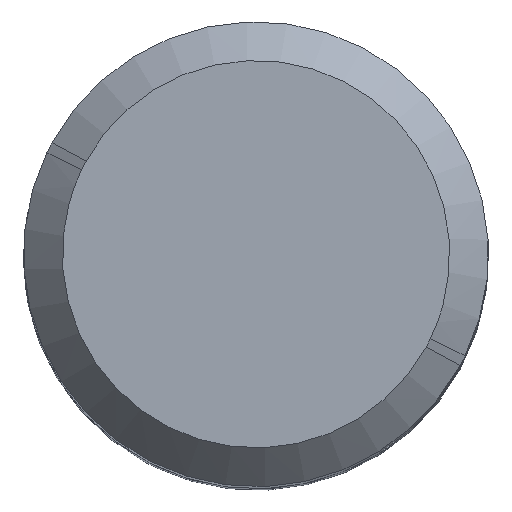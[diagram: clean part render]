
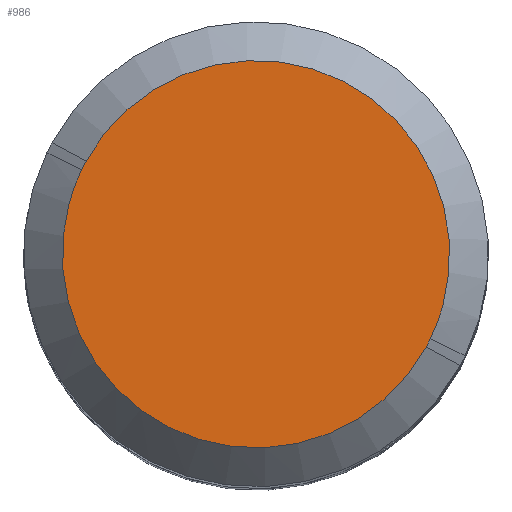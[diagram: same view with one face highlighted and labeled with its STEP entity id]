
A CAD part, top view. The second image highlights one B-rep face of the part: STEP entity #986.
In plain terms, the highlighted planar face has unit normal (0, 0, 1).
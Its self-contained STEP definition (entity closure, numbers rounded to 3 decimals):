
#934=DIRECTION('Axis2P3D Direction',(0.,0.,-1.)) ;
#935=DIRECTION('Axis2P3D XDirection',(1.,0.,0.)) ;
#933=CARTESIAN_POINT('Axis2P3D Location',(1158.25,-835.001,198.5)) ;
#939=CARTESIAN_POINT('Control Point',(1160.444,-836.199,198.5)) ;
#940=CARTESIAN_POINT('Control Point',(1160.073,-836.878,198.5)) ;
#941=CARTESIAN_POINT('Control Point',(1159.44,-837.413,198.5)) ;
#942=CARTESIAN_POINT('Control Point',(1158.616,-837.666,198.5)) ;
#943=CARTESIAN_POINT('Control Point',(1156.967,-837.488,198.5)) ;
#944=CARTESIAN_POINT('Control Point',(1155.866,-836.247,198.5)) ;
#945=CARTESIAN_POINT('Control Point',(1155.594,-835.43,198.5)) ;
#946=CARTESIAN_POINT('Control Point',(1155.663,-834.604,198.5)) ;
#947=CARTESIAN_POINT('Control Point',(1156.001,-833.908,198.5)) ;
#948=CARTESIAN_POINT('Vertex',(1156.001,-833.908,198.5)) ;
#950=CARTESIAN_POINT('Vertex',(1160.444,-836.199,198.5)) ;
#954=CARTESIAN_POINT('Control Point',(1160.498,-836.093,198.5)) ;
#955=CARTESIAN_POINT('Control Point',(1160.481,-836.129,198.5)) ;
#956=CARTESIAN_POINT('Control Point',(1160.463,-836.164,198.5)) ;
#957=CARTESIAN_POINT('Control Point',(1160.444,-836.199,198.5)) ;
#958=CARTESIAN_POINT('Vertex',(1160.498,-836.093,198.5)) ;
#962=CARTESIAN_POINT('Control Point',(1156.056,-833.802,198.5)) ;
#963=CARTESIAN_POINT('Control Point',(1156.427,-833.123,198.5)) ;
#964=CARTESIAN_POINT('Control Point',(1157.06,-832.588,198.5)) ;
#965=CARTESIAN_POINT('Control Point',(1157.884,-832.336,198.5)) ;
#966=CARTESIAN_POINT('Control Point',(1159.533,-832.513,198.5)) ;
#967=CARTESIAN_POINT('Control Point',(1160.634,-833.754,198.5)) ;
#968=CARTESIAN_POINT('Control Point',(1160.906,-834.571,198.5)) ;
#969=CARTESIAN_POINT('Control Point',(1160.837,-835.398,198.5)) ;
#970=CARTESIAN_POINT('Control Point',(1160.498,-836.093,198.5)) ;
#971=CARTESIAN_POINT('Vertex',(1156.056,-833.802,198.5)) ;
#975=CARTESIAN_POINT('Control Point',(1156.001,-833.908,198.5)) ;
#976=CARTESIAN_POINT('Control Point',(1156.019,-833.872,198.5)) ;
#977=CARTESIAN_POINT('Control Point',(1156.037,-833.837,198.5)) ;
#978=CARTESIAN_POINT('Control Point',(1156.056,-833.802,198.5)) ;
#936=AXIS2_PLACEMENT_3D('Plane Axis2P3D',#933,#934,#935) ;
#952=EDGE_CURVE('',#949,#951,#938,.F.) ;
#960=EDGE_CURVE('',#951,#959,#953,.F.) ;
#973=EDGE_CURVE('',#959,#972,#961,.F.) ;
#979=EDGE_CURVE('',#972,#949,#974,.F.) ;
#937=PLANE('Plane',#936) ;
#981=ORIENTED_EDGE('',*,*,#952,.T.) ;
#982=ORIENTED_EDGE('',*,*,#960,.T.) ;
#983=ORIENTED_EDGE('',*,*,#973,.T.) ;
#984=ORIENTED_EDGE('',*,*,#979,.T.) ;
#986=ADVANCED_FACE('\X2\94C663A5540E\X0\',(#985),#937,.F.) ;
#949=VERTEX_POINT('',#948) ;
#951=VERTEX_POINT('',#950) ;
#959=VERTEX_POINT('',#958) ;
#972=VERTEX_POINT('',#971) ;
#938=B_SPLINE_CURVE_WITH_KNOTS('',5,(#939,#940,#941,#942,#943,#944,#945,#946,#947),.UNSPECIFIED.,.F.,.U.,(6,3,6),(1.25,5.117,8.985),.UNSPECIFIED.) ;
#953=B_SPLINE_CURVE_WITH_KNOTS('',3,(#954,#955,#956,#957),.UNSPECIFIED.,.F.,.U.,(4,4),(1.131,1.25),.UNSPECIFIED.) ;
#961=B_SPLINE_CURVE_WITH_KNOTS('',5,(#962,#963,#964,#965,#966,#967,#968,#969,#970),.UNSPECIFIED.,.F.,.U.,(6,3,6),(9.104,12.971,16.839),.UNSPECIFIED.) ;
#974=B_SPLINE_CURVE_WITH_KNOTS('',3,(#975,#976,#977,#978),.UNSPECIFIED.,.F.,.U.,(4,4),(8.985,9.104),.UNSPECIFIED.) ;
#980=EDGE_LOOP('',(#981,#982,#983,#984)) ;
#985=FACE_OUTER_BOUND('',#980,.T.) ;
